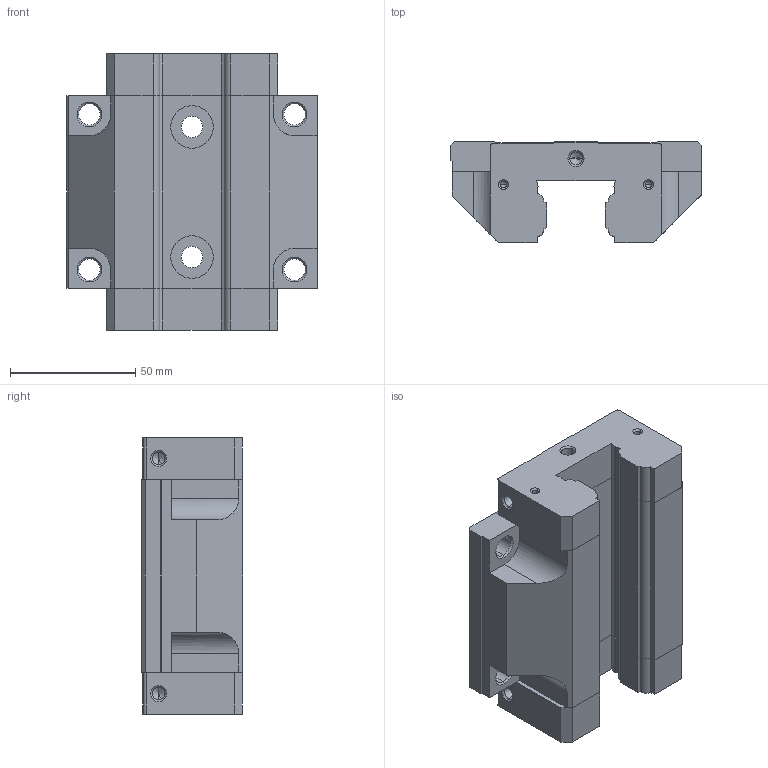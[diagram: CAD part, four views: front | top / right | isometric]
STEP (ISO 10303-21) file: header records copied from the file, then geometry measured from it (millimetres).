
FILE_DESCRIPTION (( 'STEP AP214' ), '1' );
FILE_NAME ('RUSIZE_06061659482595.step', '2007-06-06T20:59:49', ( 'sysAdmin' ), ( 'SolidWorks' ), 'SwSTEP 2.0', 'SolidWorks 2007', '' );
FILE_SCHEMA (( 'AUTOMOTIVE_DESIGN' ));
Length unit declared in the file: millimetre
Products named in the file (1): RUSIZE_06061659482595
Bounding box: 100 x 40.4 x 110.5 mm (x, y, z)
Volume: 271771.2 mm3; surface area: 50363.5 mm2
Topology: 3 solids, 3 shells, 234 faces, 606 edges, 374 vertices
Faces by surface type: plane 110, cylinder 64, cone 60
Entity records: 7923 total; most frequent: DIRECTION 1216, CARTESIAN_POINT 1207, ORIENTED_EDGE 1172, EDGE_CURVE 586, LINE 418, VECTOR 418, AXIS2_PLACEMENT_3D 399, VERTEX_POINT 374
